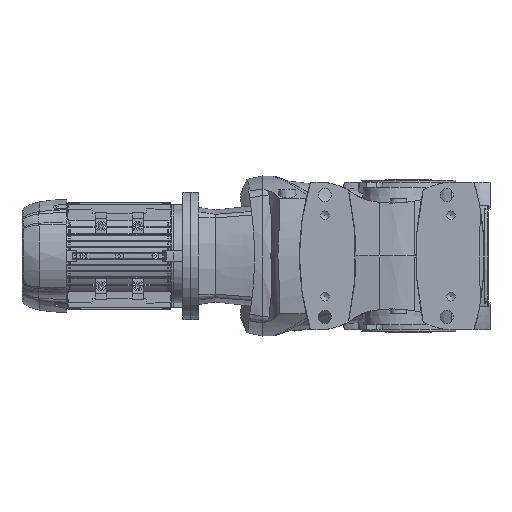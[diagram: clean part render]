
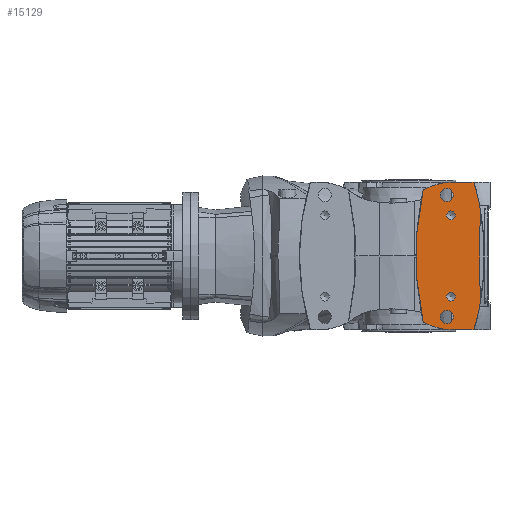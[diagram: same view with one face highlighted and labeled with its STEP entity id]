
A CAD part, front view. The second image highlights one B-rep face of the part: STEP entity #15129.
In plain terms, the highlighted planar face has unit normal (0, -1, 0).
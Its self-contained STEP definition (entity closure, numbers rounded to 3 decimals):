
#1110=CARTESIAN_POINT('',(192.106,-212.5,145.0));
#1111=VERTEX_POINT('',#1110);
#1118=CARTESIAN_POINT('',(204.73,-212.5,90.0));
#1119=VERTEX_POINT('',#1118);
#1120=CARTESIAN_POINT('',(-313.513,-212.5,0.0));
#1121=DIRECTION('',(0.0,-1.0,0.0));
#1122=DIRECTION('',(-1.0,0.0,0.0));
#1123=AXIS2_PLACEMENT_3D('',#1120,#1121,#1122);
#1124=CIRCLE('',#1123,526.0);
#1125=EDGE_CURVE('',#1119,#1111,#1124,.T.);
#1144=CARTESIAN_POINT('',(204.73,-212.5,-90.0));
#1145=VERTEX_POINT('',#1144);
#1152=CARTESIAN_POINT('',(192.106,-212.5,-145.0));
#1153=VERTEX_POINT('',#1152);
#1154=CARTESIAN_POINT('',(-313.513,-212.5,0.0));
#1155=DIRECTION('',(0.0,-1.0,0.0));
#1156=DIRECTION('',(-1.0,0.0,0.0));
#1157=AXIS2_PLACEMENT_3D('',#1154,#1155,#1156);
#1158=CIRCLE('',#1157,526.0);
#1159=EDGE_CURVE('',#1153,#1145,#1158,.T.);
#2038=CARTESIAN_POINT('',(151.5,-212.5,-120.0));
#2039=VERTEX_POINT('',#2038);
#2040=CARTESIAN_POINT('',(138.5,-212.5,-120.0));
#2041=DIRECTION('',(0.0,-1.0,0.0));
#2042=DIRECTION('',(1.0,0.0,0.0));
#2043=AXIS2_PLACEMENT_3D('',#2040,#2041,#2042);
#2044=CIRCLE('',#2043,13.);
#2045=EDGE_CURVE('',#2039,#2039,#2044,.T.);
#2122=CARTESIAN_POINT('',(151.5,-212.5,120.0));
#2123=VERTEX_POINT('',#2122);
#2124=CARTESIAN_POINT('',(138.5,-212.5,120.0));
#2125=DIRECTION('',(0.0,-1.0,0.0));
#2126=DIRECTION('',(1.0,0.0,0.0));
#2127=AXIS2_PLACEMENT_3D('',#2124,#2125,#2126);
#2128=CIRCLE('',#2127,13.);
#2129=EDGE_CURVE('',#2123,#2123,#2128,.T.);
#2243=CARTESIAN_POINT('',(146.5,-212.5,-88.75));
#2244=VERTEX_POINT('',#2243);
#2245=CARTESIAN_POINT('',(146.5,-212.5,-80.0));
#2246=DIRECTION('',(0.0,-1.0,0.0));
#2247=DIRECTION('',(0.0,0.0,-1.0));
#2248=AXIS2_PLACEMENT_3D('',#2245,#2246,#2247);
#2249=CIRCLE('',#2248,8.75);
#2250=EDGE_CURVE('',#2244,#2244,#2249,.T.);
#2280=CARTESIAN_POINT('',(146.5,-212.5,71.25));
#2281=VERTEX_POINT('',#2280);
#2282=CARTESIAN_POINT('',(146.5,-212.5,80.0));
#2283=DIRECTION('',(0.0,-1.0,0.0));
#2284=DIRECTION('',(0.0,0.0,-1.0));
#2285=AXIS2_PLACEMENT_3D('',#2282,#2283,#2284);
#2286=CIRCLE('',#2285,8.75);
#2287=EDGE_CURVE('',#2281,#2281,#2286,.T.);
#15042=CARTESIAN_POINT('',(-223.5,-212.5,155.13));
#15043=DIRECTION('',(0.0,1.0,0.0));
#15044=DIRECTION('',(0.0,0.0,1.0));
#15045=AXIS2_PLACEMENT_3D('',#15042,#15043,#15044);
#15046=PLANE('',#15045);
#15047=CARTESIAN_POINT('',(92.,-212.5,-130.0));
#15048=VERTEX_POINT('',#15047);
#15049=CARTESIAN_POINT('',(119.466,-212.5,-141.025));
#15050=VERTEX_POINT('',#15049);
#15051=CARTESIAN_POINT('',(161.337,-212.5,3.012));
#15052=DIRECTION('',(0.0,-1.0,0.0));
#15053=DIRECTION('',(1.0,0.0,0.0));
#15054=AXIS2_PLACEMENT_3D('',#15051,#15052,#15053);
#15055=CIRCLE('',#15054,150.);
#15056=EDGE_CURVE('',#15048,#15050,#15055,.T.);
#15057=ORIENTED_EDGE('',*,*,#15056,.T.);
#15058=CARTESIAN_POINT('',(147.38,-212.5,-145.0));
#15059=VERTEX_POINT('',#15058);
#15060=CARTESIAN_POINT('',(147.38,-212.5,-45.0));
#15061=DIRECTION('',(0.0,-1.0,0.0));
#15062=DIRECTION('',(-1.0,0.0,0.0));
#15063=AXIS2_PLACEMENT_3D('',#15060,#15061,#15062);
#15064=CIRCLE('',#15063,100.0);
#15065=EDGE_CURVE('',#15050,#15059,#15064,.T.);
#15066=ORIENTED_EDGE('',*,*,#15065,.T.);
#15067=CARTESIAN_POINT('',(147.38,-212.5,-145.0));
#15068=DIRECTION('',(1.0,0.0,0.0));
#15069=VECTOR('',#15068,44.726);
#15070=LINE('',#15067,#15069);
#15071=EDGE_CURVE('',#15059,#1153,#15070,.T.);
#15072=ORIENTED_EDGE('',*,*,#15071,.T.);
#15073=ORIENTED_EDGE('',*,*,#1159,.T.);
#15074=CARTESIAN_POINT('',(2202.704,-212.5,0.0));
#15075=DIRECTION('',(0.0,-1.0,0.0));
#15076=DIRECTION('',(1.0,0.0,0.0));
#15077=AXIS2_PLACEMENT_3D('',#15074,#15075,#15076);
#15078=CIRCLE('',#15077,2000.);
#15079=EDGE_CURVE('',#1119,#1145,#15078,.T.);
#15080=ORIENTED_EDGE('',*,*,#15079,.F.);
#15081=ORIENTED_EDGE('',*,*,#1125,.T.);
#15082=CARTESIAN_POINT('',(147.38,-212.5,145.0));
#15083=VERTEX_POINT('',#15082);
#15084=CARTESIAN_POINT('',(192.106,-212.5,145.0));
#15085=DIRECTION('',(-1.0,0.0,0.0));
#15086=VECTOR('',#15085,44.726);
#15087=LINE('',#15084,#15086);
#15088=EDGE_CURVE('',#1111,#15083,#15087,.T.);
#15089=ORIENTED_EDGE('',*,*,#15088,.T.);
#15090=CARTESIAN_POINT('',(119.466,-212.5,141.025));
#15091=VERTEX_POINT('',#15090);
#15092=CARTESIAN_POINT('',(147.38,-212.5,45.0));
#15093=DIRECTION('',(0.0,-1.0,0.0));
#15094=DIRECTION('',(-1.0,0.0,0.0));
#15095=AXIS2_PLACEMENT_3D('',#15092,#15093,#15094);
#15096=CIRCLE('',#15095,100.0);
#15097=EDGE_CURVE('',#15083,#15091,#15096,.T.);
#15098=ORIENTED_EDGE('',*,*,#15097,.T.);
#15099=CARTESIAN_POINT('',(92.,-212.5,130.0));
#15100=VERTEX_POINT('',#15099);
#15101=CARTESIAN_POINT('',(161.337,-212.5,-3.012));
#15102=DIRECTION('',(0.0,-1.0,0.0));
#15103=DIRECTION('',(-1.0,0.0,0.0));
#15104=AXIS2_PLACEMENT_3D('',#15101,#15102,#15103);
#15105=CIRCLE('',#15104,150.0);
#15106=EDGE_CURVE('',#15091,#15100,#15105,.T.);
#15107=ORIENTED_EDGE('',*,*,#15106,.T.);
#15108=CARTESIAN_POINT('',(677.747,-212.5,0.0));
#15109=DIRECTION('',(0.0,-1.0,0.0));
#15110=DIRECTION('',(1.0,0.0,0.0));
#15111=AXIS2_PLACEMENT_3D('',#15108,#15109,#15110);
#15112=CIRCLE('',#15111,600.0);
#15113=EDGE_CURVE('',#15100,#15048,#15112,.T.);
#15114=ORIENTED_EDGE('',*,*,#15113,.T.);
#15115=EDGE_LOOP('',(#15057,#15066,#15072,#15073,#15080,#15081,#15089,#15098,#15107,#15114));
#15116=FACE_OUTER_BOUND('',#15115,.T.);
#15117=ORIENTED_EDGE('',*,*,#2129,.F.);
#15118=EDGE_LOOP('',(#15117));
#15119=FACE_BOUND('',#15118,.T.);
#15120=ORIENTED_EDGE('',*,*,#2287,.F.);
#15121=EDGE_LOOP('',(#15120));
#15122=FACE_BOUND('',#15121,.T.);
#15123=ORIENTED_EDGE('',*,*,#2250,.F.);
#15124=EDGE_LOOP('',(#15123));
#15125=FACE_BOUND('',#15124,.T.);
#15126=ORIENTED_EDGE('',*,*,#2045,.F.);
#15127=EDGE_LOOP('',(#15126));
#15128=FACE_BOUND('',#15127,.T.);
#15129=ADVANCED_FACE('',(#15116,#15119,#15122,#15125,#15128),#15046,.F.);
